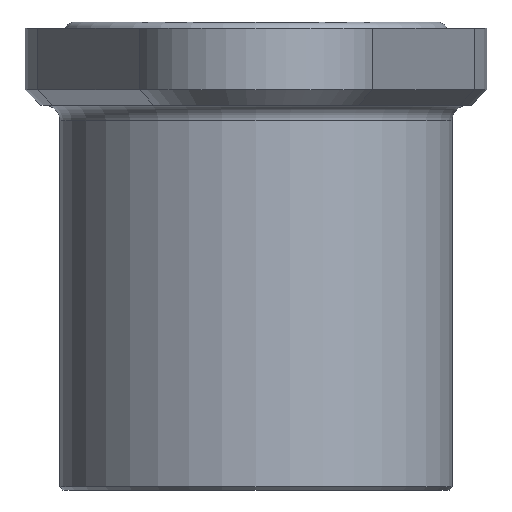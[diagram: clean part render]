
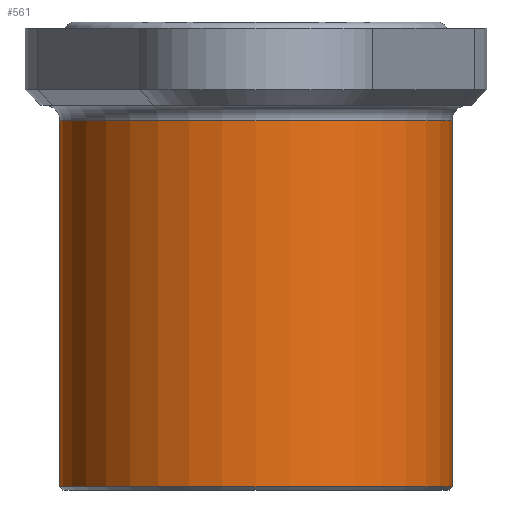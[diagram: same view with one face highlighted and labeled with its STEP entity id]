
A CAD part, left-side view. The second image highlights one B-rep face of the part: STEP entity #561.
In plain terms, the highlighted cylindrical face has radius 12.75 mm (diameter 25.5 mm), a full revolution.
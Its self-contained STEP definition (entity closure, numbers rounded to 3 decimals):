
#515=CYLINDRICAL_SURFACE('',#1190,12.75);
#561=ADVANCED_FACE('',(#684,#685),#515,.T.);
#684=FACE_BOUND('',#770,.T.);
#685=FACE_BOUND('',#771,.T.);
#770=EDGE_LOOP('',(#916));
#771=EDGE_LOOP('',(#917));
#916=ORIENTED_EDGE('',*,*,#1052,.T.);
#917=ORIENTED_EDGE('',*,*,#1053,.T.);
#977=VERTEX_POINT('',#1613);
#978=VERTEX_POINT('',#1615);
#1052=EDGE_CURVE('',#977,#977,#1097,.T.);
#1053=EDGE_CURVE('',#978,#978,#1098,.T.);
#1097=CIRCLE('',#1188,12.75);
#1098=CIRCLE('',#1189,12.75);
#1188=AXIS2_PLACEMENT_3D('',#1612,#1396,#1397);
#1189=AXIS2_PLACEMENT_3D('',#1614,#1398,#1399);
#1190=AXIS2_PLACEMENT_3D('',#1616,#1400,#1401);
#1396=DIRECTION('',(0.,0.,1.));
#1397=DIRECTION('',(-1.,0.,0.));
#1398=DIRECTION('',(0.,0.,-1.));
#1399=DIRECTION('',(1.,0.,0.));
#1400=DIRECTION('',(0.,0.,1.));
#1401=DIRECTION('',(1.,0.,0.));
#1612=CARTESIAN_POINT('',(-5.561,-45.573,-188.97));
#1613=CARTESIAN_POINT('',(-18.311,-45.573,-188.97));
#1614=CARTESIAN_POINT('',(-5.561,-45.573,-165.17));
#1615=CARTESIAN_POINT('',(7.189,-45.573,-165.17));
#1616=CARTESIAN_POINT('',(-5.561,-45.573,-189.17));
